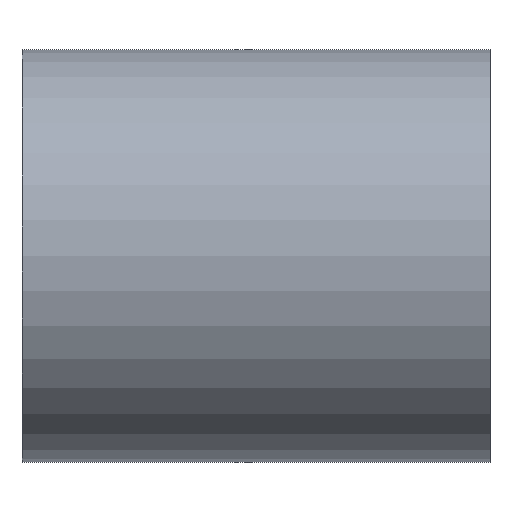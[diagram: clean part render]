
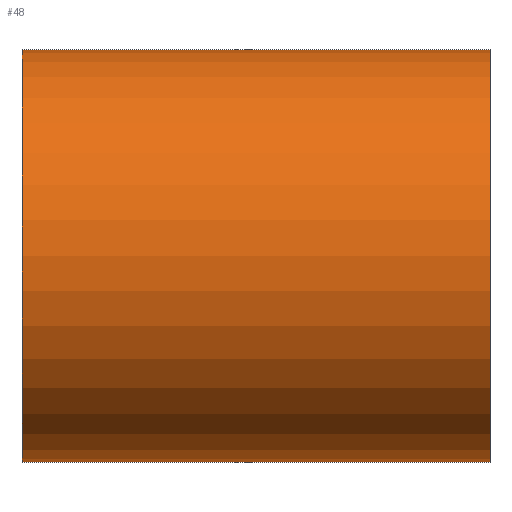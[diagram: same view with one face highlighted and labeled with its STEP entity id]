
A CAD part, top view. The second image highlights one B-rep face of the part: STEP entity #48.
In plain terms, the highlighted cylindrical face has radius 18.5 mm (diameter 37 mm), a partial arc.
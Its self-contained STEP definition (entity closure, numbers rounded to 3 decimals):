
#48=ADVANCED_FACE('',(#71),#220,.T.);
#71=FACE_OUTER_BOUND('',#96,.F.);
#96=EDGE_LOOP('',(#141,#142,#143,#144));
#141=ORIENTED_EDGE('',*,*,#282,.F.);
#142=ORIENTED_EDGE('',*,*,#286,.T.);
#143=ORIENTED_EDGE('',*,*,#283,.T.);
#144=ORIENTED_EDGE('',*,*,#285,.T.);
#220=CYLINDRICAL_SURFACE('',#424,18.5);
#243=LINE('',#615,#259);
#244=LINE('',#616,#260);
#259=VECTOR('',#461,42.);
#260=VECTOR('',#462,42.);
#282=EDGE_CURVE('',#375,#378,#243,.T.);
#283=EDGE_CURVE('',#376,#377,#244,.T.);
#285=EDGE_CURVE('',#377,#378,#329,.T.);
#286=EDGE_CURVE('',#375,#376,#330,.T.);
#329=CIRCLE('',#395,18.5);
#330=CIRCLE('',#396,18.5);
#375=VERTEX_POINT('',#596);
#376=VERTEX_POINT('',#597);
#377=VERTEX_POINT('',#598);
#378=VERTEX_POINT('',#599);
#395=AXIS2_PLACEMENT_3D('',#618,#465,#466);
#396=AXIS2_PLACEMENT_3D('',#619,#467,#468);
#424=AXIS2_PLACEMENT_3D('',#659,#535,#536);
#461=DIRECTION('',(1.,0.,0.));
#462=DIRECTION('',(1.,0.,0.));
#465=DIRECTION('',(1.,0.,0.));
#466=DIRECTION('',(0.,1.,0.));
#467=DIRECTION('',(-1.,0.,0.));
#468=DIRECTION('',(0.,-1.,0.));
#535=DIRECTION('',(1.,0.,0.));
#536=DIRECTION('',(0.,1.,0.));
#596=CARTESIAN_POINT('',(2047.056,-415.289,6227.745));
#597=CARTESIAN_POINT('',(2047.056,-378.289,6227.745));
#598=CARTESIAN_POINT('',(2089.056,-378.289,6227.745));
#599=CARTESIAN_POINT('',(2089.056,-415.289,6227.745));
#615=CARTESIAN_POINT('',(2047.056,-415.289,6227.745));
#616=CARTESIAN_POINT('',(2047.056,-378.289,6227.745));
#618=CARTESIAN_POINT('',(2089.056,-396.789,6227.745));
#619=CARTESIAN_POINT('',(2047.056,-396.789,6227.745));
#659=CARTESIAN_POINT('',(2047.056,-396.789,6227.745));
